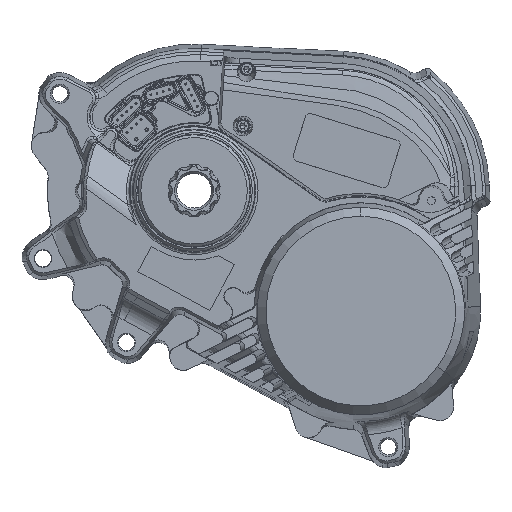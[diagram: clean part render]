
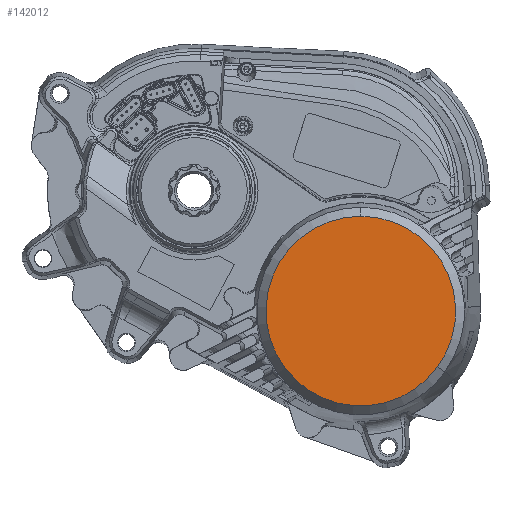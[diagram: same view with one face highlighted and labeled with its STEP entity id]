
A CAD part, front view. The second image highlights one B-rep face of the part: STEP entity #142012.
In plain terms, the highlighted planar face has unit normal (0, -1, 0).
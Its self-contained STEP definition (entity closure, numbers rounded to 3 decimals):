
#1085 = CIRCLE ( 'NONE', #45747, 38.274 ) ;
#1838 = PLANE ( 'NONE',  #145739 ) ;
#13160 = CARTESIAN_POINT ( 'NONE',  ( 67.288, -53.2, -10.319 ) ) ;
#14757 = DIRECTION ( 'NONE',  ( 0., -1., 0. ) ) ;
#29285 = DIRECTION ( 'NONE',  ( 0., 0., 1. ) ) ;
#45747 = AXIS2_PLACEMENT_3D ( 'NONE', #154414, #53990, #29285 ) ;
#53666 = EDGE_CURVE ( 'NONE', #73514, #103793, #1085, .T. ) ;
#53990 = DIRECTION ( 'NONE',  ( 0., -1., 0. ) ) ;
#64338 = FACE_OUTER_BOUND ( 'NONE', #74261, .T. ) ;
#65817 = CARTESIAN_POINT ( 'NONE',  ( 67.288, -53.2, -48.594 ) ) ;
#70038 = CARTESIAN_POINT ( 'NONE',  ( 67.288, -53.2, -48.594 ) ) ;
#73514 = VERTEX_POINT ( 'NONE', #13160 ) ;
#74225 = ORIENTED_EDGE ( 'NONE', *, *, #113712, .T. ) ;
#74261 = EDGE_LOOP ( 'NONE', ( #95329, #74225 ) ) ;
#82384 = DIRECTION ( 'NONE',  ( 0., 0., 1. ) ) ;
#94561 = AXIS2_PLACEMENT_3D ( 'NONE', #65817, #14757, #140000 ) ;
#95329 = ORIENTED_EDGE ( 'NONE', *, *, #53666, .T. ) ;
#103793 = VERTEX_POINT ( 'NONE', #132905 ) ;
#113712 = EDGE_CURVE ( 'NONE', #103793, #73514, #149817, .T. ) ;
#132905 = CARTESIAN_POINT ( 'NONE',  ( 98.317, -53.2, -71.002 ) ) ;
#140000 = DIRECTION ( 'NONE',  ( 0., 0., 1. ) ) ;
#142012 = ADVANCED_FACE ( 'NONE', ( #64338 ), #1838, .F. ) ;
#145739 = AXIS2_PLACEMENT_3D ( 'NONE', #70038, #159014, #82384 ) ;
#149817 = CIRCLE ( 'NONE', #94561, 38.274 ) ;
#154414 = CARTESIAN_POINT ( 'NONE',  ( 67.288, -53.2, -48.594 ) ) ;
#159014 = DIRECTION ( 'NONE',  ( 0., 1., 0. ) ) ;
